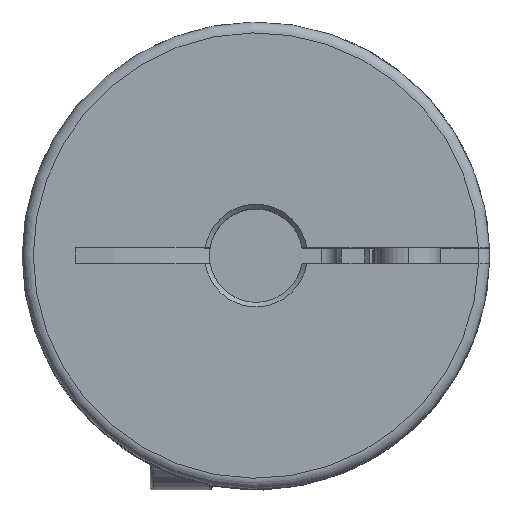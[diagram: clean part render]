
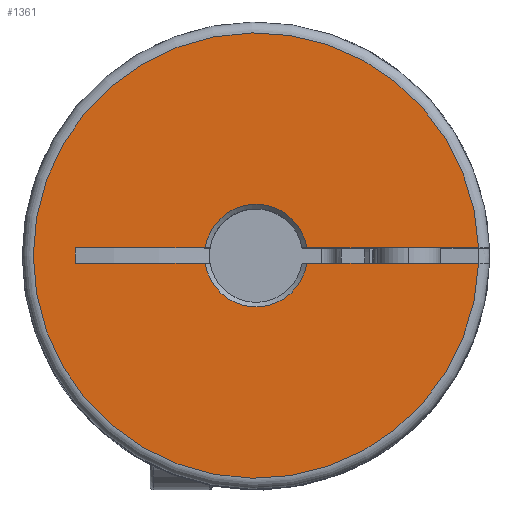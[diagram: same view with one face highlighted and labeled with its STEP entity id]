
A CAD part, top view. The second image highlights one B-rep face of the part: STEP entity #1361.
In plain terms, the highlighted planar face has unit normal (0, 0, 1).
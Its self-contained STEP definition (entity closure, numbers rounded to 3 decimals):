
#492 = CARTESIAN_POINT ( 'NONE',  ( 3.262, -0.5, 17.65 ) ) ;
#1361 = ADVANCED_FACE ( 'NONE', ( #1480 ), #3082, .T. ) ;
#1480 = FACE_OUTER_BOUND ( 'NONE', #6286, .T. ) ;
#1791 = LINE ( 'NONE', #7721, #1802 ) ;
#1793 = LINE ( 'NONE', #7718, #1795 ) ;
#1794 = CIRCLE ( 'NONE', #2687, 3.3 ) ;
#1795 = VECTOR ( 'NONE', #7735, 1000. ) ;
#1796 = LINE ( 'NONE', #7715, #1798 ) ;
#1797 = LINE ( 'NONE', #7711, #1800 ) ;
#1798 = VECTOR ( 'NONE', #7724, 1000. ) ;
#1799 = CIRCLE ( 'NONE', #2688, 3.3 ) ;
#1800 = VECTOR ( 'NONE', #7700, 1000. ) ;
#1802 = VECTOR ( 'NONE', #7714, 1000. ) ;
#1803 = LINE ( 'NONE', #7713, #1805 ) ;
#1804 = CIRCLE ( 'NONE', #2689, 14.3 ) ;
#1805 = VECTOR ( 'NONE', #7716, 1000. ) ;
#2516 = AXIS2_PLACEMENT_3D ( 'NONE', #3080, #3085, #3086 ) ;
#2687 = AXIS2_PLACEMENT_3D ( 'NONE', #7728, #7719, #7717 ) ;
#2688 = AXIS2_PLACEMENT_3D ( 'NONE', #7709, #7705, #7707 ) ;
#2689 = AXIS2_PLACEMENT_3D ( 'NONE', #7691, #7701, #7696 ) ;
#3080 = CARTESIAN_POINT ( 'NONE',  ( 0., 0., 17.65 ) ) ;
#3082 = PLANE ( 'NONE',  #2516 ) ;
#3085 = DIRECTION ( 'NONE',  ( 0., 0., 1. ) ) ;
#3086 = DIRECTION ( 'NONE',  ( 1., 0., 0. ) ) ;
#3633 = EDGE_CURVE ( 'NONE', #4323, #4124, #1793, .T. ) ;
#3634 = EDGE_CURVE ( 'NONE', #4124, #4415, #1794, .T. ) ;
#3635 = EDGE_CURVE ( 'NONE', #4415, #4257, #1796, .T. ) ;
#3636 = EDGE_CURVE ( 'NONE', #4260, #4257, #1797, .T. ) ;
#3637 = EDGE_CURVE ( 'NONE', #4343, #4260, #1791, .T. ) ;
#3638 = EDGE_CURVE ( 'NONE', #4343, #4324, #1799, .T. ) ;
#3639 = EDGE_CURVE ( 'NONE', #4268, #4324, #1803, .T. ) ;
#3640 = EDGE_CURVE ( 'NONE', #4268, #4323, #1804, .T. ) ;
#4124 = VERTEX_POINT ( 'NONE', #492 ) ;
#4257 = VERTEX_POINT ( 'NONE', #4762 ) ;
#4260 = VERTEX_POINT ( 'NONE', #4765 ) ;
#4268 = VERTEX_POINT ( 'NONE', #4773 ) ;
#4323 = VERTEX_POINT ( 'NONE', #4828 ) ;
#4324 = VERTEX_POINT ( 'NONE', #4829 ) ;
#4343 = VERTEX_POINT ( 'NONE', #4848 ) ;
#4415 = VERTEX_POINT ( 'NONE', #4920 ) ;
#4762 = CARTESIAN_POINT ( 'NONE',  ( -11.6, -0.5, 17.65 ) ) ;
#4765 = CARTESIAN_POINT ( 'NONE',  ( -11.6, 0.5, 17.65 ) ) ;
#4773 = CARTESIAN_POINT ( 'NONE',  ( 14.291, 0.5, 17.65 ) ) ;
#4828 = CARTESIAN_POINT ( 'NONE',  ( 14.291, -0.5, 17.65 ) ) ;
#4829 = CARTESIAN_POINT ( 'NONE',  ( 3.262, 0.5, 17.65 ) ) ;
#4848 = CARTESIAN_POINT ( 'NONE',  ( -3.262, 0.5, 17.65 ) ) ;
#4920 = CARTESIAN_POINT ( 'NONE',  ( -3.262, -0.5, 17.65 ) ) ;
#5768 = ORIENTED_EDGE ( 'NONE', *, *, #3636, .F. ) ;
#5777 = ORIENTED_EDGE ( 'NONE', *, *, #3638, .T. ) ;
#5779 = ORIENTED_EDGE ( 'NONE', *, *, #3634, .T. ) ;
#5789 = ORIENTED_EDGE ( 'NONE', *, *, #3639, .F. ) ;
#5815 = ORIENTED_EDGE ( 'NONE', *, *, #3635, .T. ) ;
#5832 = ORIENTED_EDGE ( 'NONE', *, *, #3633, .T. ) ;
#5838 = ORIENTED_EDGE ( 'NONE', *, *, #3637, .F. ) ;
#5843 = ORIENTED_EDGE ( 'NONE', *, *, #3640, .T. ) ;
#6286 = EDGE_LOOP ( 'NONE', ( #5832, #5779, #5815, #5768, #5838, #5777, #5789, #5843 ) ) ;
#7691 = CARTESIAN_POINT ( 'NONE',  ( 0., 0., 17.65 ) ) ;
#7696 = DIRECTION ( 'NONE',  ( 1., 0., 0. ) ) ;
#7700 = DIRECTION ( 'NONE',  ( 0., -1., 0. ) ) ;
#7701 = DIRECTION ( 'NONE',  ( 0., 0., 1. ) ) ;
#7705 = DIRECTION ( 'NONE',  ( 0., 0., -1. ) ) ;
#7707 = DIRECTION ( 'NONE',  ( 1., 0., 0. ) ) ;
#7709 = CARTESIAN_POINT ( 'NONE',  ( 0., 0., 17.65 ) ) ;
#7711 = CARTESIAN_POINT ( 'NONE',  ( -11.6, -0.5, 17.65 ) ) ;
#7713 = CARTESIAN_POINT ( 'NONE',  ( 0., 0.5, 17.65 ) ) ;
#7714 = DIRECTION ( 'NONE',  ( -1., 0., 0. ) ) ;
#7715 = CARTESIAN_POINT ( 'NONE',  ( 0., -0.5, 17.65 ) ) ;
#7716 = DIRECTION ( 'NONE',  ( -1., 0., 0. ) ) ;
#7717 = DIRECTION ( 'NONE',  ( 1., 0., 0. ) ) ;
#7718 = CARTESIAN_POINT ( 'NONE',  ( 0., -0.5, 17.65 ) ) ;
#7719 = DIRECTION ( 'NONE',  ( 0., 0., -1. ) ) ;
#7721 = CARTESIAN_POINT ( 'NONE',  ( 0., 0.5, 17.65 ) ) ;
#7724 = DIRECTION ( 'NONE',  ( -1., 0., 0. ) ) ;
#7728 = CARTESIAN_POINT ( 'NONE',  ( 0., 0., 17.65 ) ) ;
#7735 = DIRECTION ( 'NONE',  ( -1., 0., 0. ) ) ;
